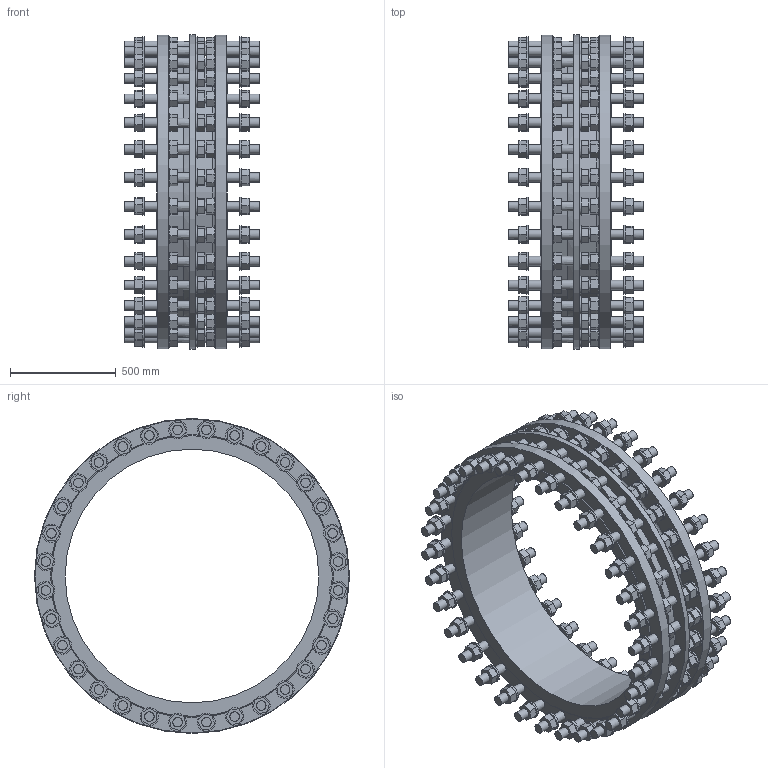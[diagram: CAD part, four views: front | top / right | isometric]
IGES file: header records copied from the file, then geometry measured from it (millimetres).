
Start section: SolidWorks IGES file using analytic representation for surfaces
Global section: file name: \\avksan2\techshare\PBM outline export from Enovia\O_265_910_DN1200_1XXXXX00_L=335_REV01.igs; native system: SolidWorks 2022; preprocessor: SolidWorks 2022; author: pbm; date: 241011.125924; units: millimetre
Bounding box: 640 x 1490 x 1490 mm (x, y, z)
Surface area: 9129157.8 mm2 (no closed solid volume)
Topology: 0 solids, 0 shells, 1820 faces, 8077 edges, 7715 vertices
Faces by surface type: bspline 1456, revolution 364
